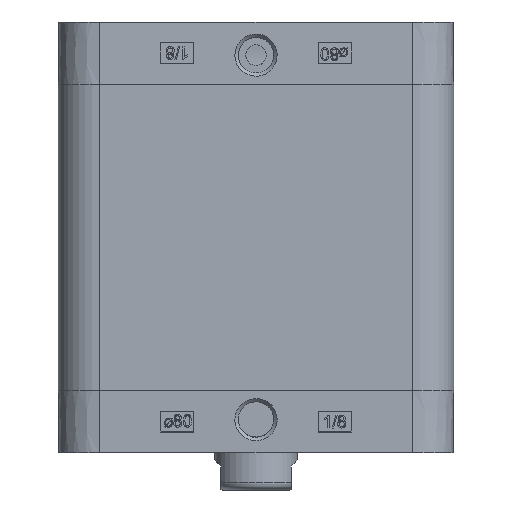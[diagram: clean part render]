
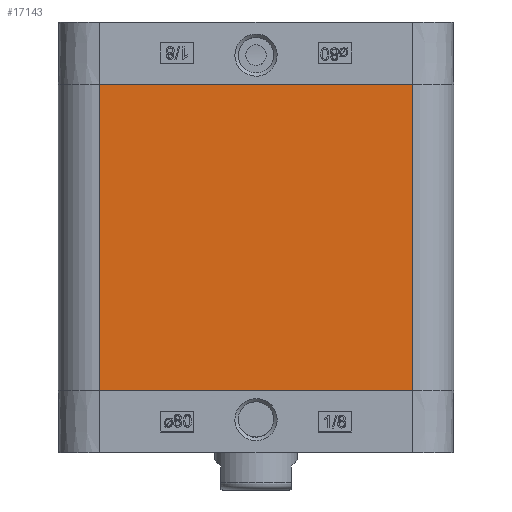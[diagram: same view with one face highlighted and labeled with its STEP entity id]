
A CAD part, left-side view. The second image highlights one B-rep face of the part: STEP entity #17143.
In plain terms, the highlighted planar face has unit normal (-1, 0, 0).
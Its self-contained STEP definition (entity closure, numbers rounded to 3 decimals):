
#1009=PLANE('',#18142);
#1917=LINE('',#26685,#2985);
#1918=LINE('',#26687,#2986);
#1919=LINE('',#26689,#2987);
#1920=LINE('',#26691,#2988);
#2985=VECTOR('',#20961,1000.);
#2986=VECTOR('',#20964,1000.);
#2987=VECTOR('',#20965,1000.);
#2988=VECTOR('',#20966,1000.);
#6166=ORIENTED_EDGE('',*,*,#8321,.T.);
#6167=ORIENTED_EDGE('',*,*,#8320,.F.);
#6168=ORIENTED_EDGE('',*,*,#8322,.F.);
#6169=ORIENTED_EDGE('',*,*,#8323,.T.);
#8320=EDGE_CURVE('',#9692,#9689,#1917,.T.);
#8321=EDGE_CURVE('',#9693,#9689,#1918,.T.);
#8322=EDGE_CURVE('',#9694,#9692,#1919,.T.);
#8323=EDGE_CURVE('',#9694,#9693,#1920,.T.);
#9689=VERTEX_POINT('',#26679);
#9692=VERTEX_POINT('',#26684);
#9693=VERTEX_POINT('',#26688);
#9694=VERTEX_POINT('',#26690);
#11129=EDGE_LOOP('',(#6166,#6167,#6168,#6169));
#12046=FACE_BOUND('',#11129,.T.);
#17143=ADVANCED_FACE('',(#12046),#1009,.T.);
#18142=AXIS2_PLACEMENT_3D('',#26686,#20962,#20963);
#20961=DIRECTION('',(0.,0.,1.));
#20962=DIRECTION('',(-1.,0.,0.));
#20963=DIRECTION('',(0.,0.,1.));
#20964=DIRECTION('',(0.,1.,0.));
#20965=DIRECTION('',(0.,1.,0.));
#20966=DIRECTION('',(0.,0.,1.));
#26679=CARTESIAN_POINT('',(-47.75,37.75,29.));
#26684=CARTESIAN_POINT('',(-47.75,37.75,-45.));
#26685=CARTESIAN_POINT('',(-47.75,37.75,0.));
#26686=CARTESIAN_POINT('',(-47.75,-37.75,0.));
#26687=CARTESIAN_POINT('',(-47.75,-37.75,29.));
#26688=CARTESIAN_POINT('',(-47.75,-37.75,29.));
#26689=CARTESIAN_POINT('',(-47.75,-37.75,-45.));
#26690=CARTESIAN_POINT('',(-47.75,-37.75,-45.));
#26691=CARTESIAN_POINT('',(-47.75,-37.75,0.));
